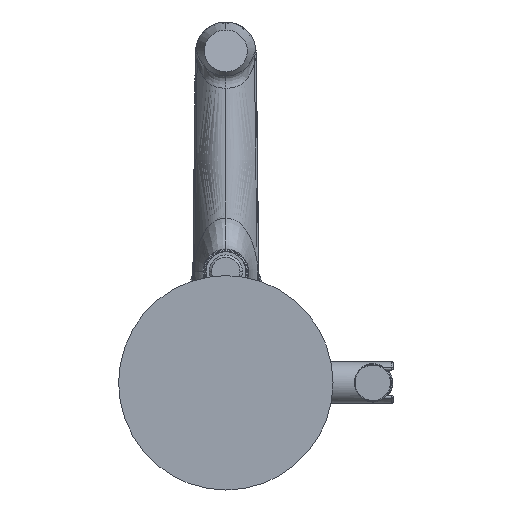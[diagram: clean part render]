
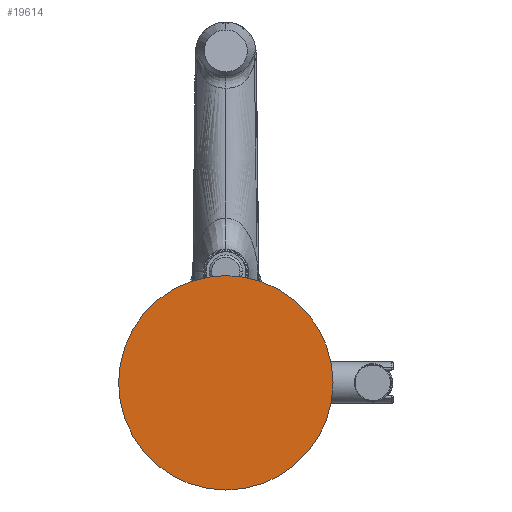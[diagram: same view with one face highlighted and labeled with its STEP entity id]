
A CAD part, front view. The second image highlights one B-rep face of the part: STEP entity #19614.
In plain terms, the highlighted planar face has unit normal (0, -1, 0).
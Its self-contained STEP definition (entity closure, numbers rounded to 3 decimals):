
#466 = DIRECTION ( 'NONE',  ( 0., -1., 0. ) ) ;
#1590 = DIRECTION ( 'NONE',  ( 1., 0., 0. ) ) ;
#3045 = CARTESIAN_POINT ( 'NONE',  ( 67.5, -841.5, 0. ) ) ;
#4970 = PLANE ( 'NONE',  #36044 ) ;
#6096 = CIRCLE ( 'NONE', #22207, 67.5 ) ;
#7643 = CARTESIAN_POINT ( 'NONE',  ( 0., -841.5, 0. ) ) ;
#7840 = VERTEX_POINT ( 'NONE', #31244 ) ;
#8646 = ORIENTED_EDGE ( 'NONE', *, *, #11114, .T. ) ;
#8696 = EDGE_LOOP ( 'NONE', ( #23215, #8646 ) ) ;
#11114 = EDGE_CURVE ( 'NONE', #13459, #7840, #6096, .T. ) ;
#13057 = AXIS2_PLACEMENT_3D ( 'NONE', #7643, #29202, #1590 ) ;
#13459 = VERTEX_POINT ( 'NONE', #3045 ) ;
#19614 = ADVANCED_FACE ( 'NONE', ( #38603 ), #4970, .F. ) ;
#20503 = DIRECTION ( 'NONE',  ( 1., 0., 0. ) ) ;
#22207 = AXIS2_PLACEMENT_3D ( 'NONE', #34117, #466, #31100 ) ;
#23215 = ORIENTED_EDGE ( 'NONE', *, *, #30683, .T. ) ;
#23325 = CARTESIAN_POINT ( 'NONE',  ( 0., -841.5, 0. ) ) ;
#25748 = DIRECTION ( 'NONE',  ( 0., 1., 0. ) ) ;
#29202 = DIRECTION ( 'NONE',  ( 0., -1., 0. ) ) ;
#30400 = CIRCLE ( 'NONE', #13057, 67.5 ) ;
#30683 = EDGE_CURVE ( 'NONE', #7840, #13459, #30400, .T. ) ;
#31100 = DIRECTION ( 'NONE',  ( 1., 0., 0. ) ) ;
#31244 = CARTESIAN_POINT ( 'NONE',  ( -67.5, -841.5, 0. ) ) ;
#34117 = CARTESIAN_POINT ( 'NONE',  ( 0., -841.5, 0. ) ) ;
#36044 = AXIS2_PLACEMENT_3D ( 'NONE', #23325, #25748, #20503 ) ;
#38603 = FACE_OUTER_BOUND ( 'NONE', #8696, .T. ) ;
